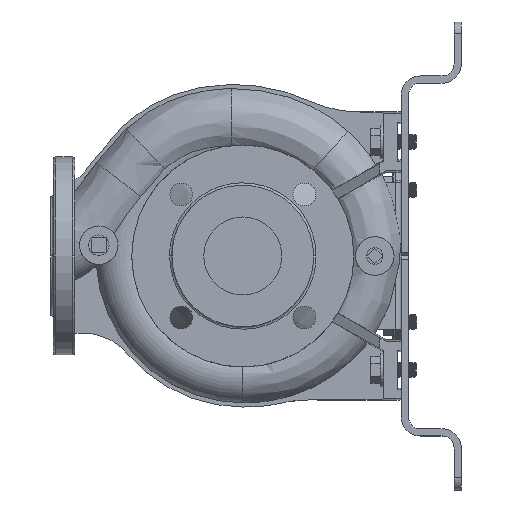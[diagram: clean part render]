
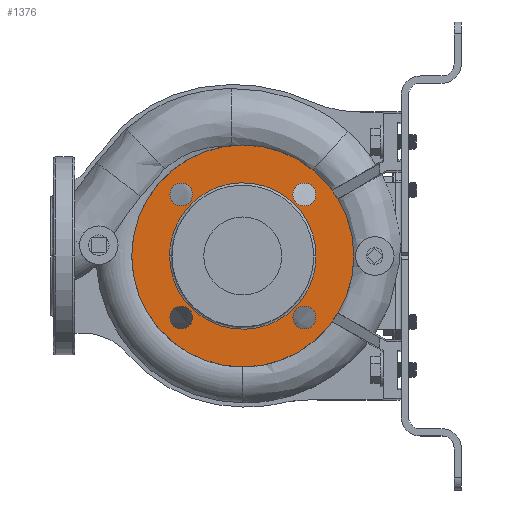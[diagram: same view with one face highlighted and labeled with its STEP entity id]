
A CAD part, left-side view. The second image highlights one B-rep face of the part: STEP entity #1376.
In plain terms, the highlighted planar face has unit normal (-1, 0, 0).
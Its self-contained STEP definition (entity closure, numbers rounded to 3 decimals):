
#1295 = EDGE_CURVE ( 'NONE', #45062, #151383, #117949, .T. ) ;
#1376 = ADVANCED_FACE ( 'NONE', ( #38204, #11997, #39110, #163739, #134879, #40012 ), #11122, .F. ) ;
#2098 = ORIENTED_EDGE ( 'NONE', *, *, #78221, .F. ) ;
#2826 = VERTEX_POINT ( 'NONE', #82690 ) ;
#3183 = DIRECTION ( 'NONE',  ( -1., 0., 0. ) ) ;
#5186 = CARTESIAN_POINT ( 'NONE',  ( -98., 0., -92.5 ) ) ;
#9315 = DIRECTION ( 'NONE',  ( 0., 1., 0. ) ) ;
#10066 = CARTESIAN_POINT ( 'NONE',  ( -98., -51.265, 60.765 ) ) ;
#10396 = CARTESIAN_POINT ( 'NONE',  ( -98., -51.265, 41.765 ) ) ;
#10887 = DIRECTION ( 'NONE',  ( 0., 0., 1. ) ) ;
#11122 = PLANE ( 'NONE',  #141025 ) ;
#11997 = FACE_BOUND ( 'NONE', #153858, .T. ) ;
#13023 = CARTESIAN_POINT ( 'NONE',  ( -98., 51.265, 41.765 ) ) ;
#14285 = CARTESIAN_POINT ( 'NONE',  ( -98., -51.265, 51.265 ) ) ;
#18477 =( BOUNDED_CURVE ( )  B_SPLINE_CURVE ( 3, ( #35251, #90329, #160773, #145461 ),
 .UNSPECIFIED., .F., .F. ) 
 B_SPLINE_CURVE_WITH_KNOTS ( ( 4, 4 ),
 ( 0., 1. ),
 .UNSPECIFIED. ) 
 CURVE ( )  GEOMETRIC_REPRESENTATION_ITEM ( )  RATIONAL_B_SPLINE_CURVE ( ( 0.957, 0.319, 0.319, 0.957 ) ) 
 REPRESENTATION_ITEM ( '' )  );
#20011 = AXIS2_PLACEMENT_3D ( 'NONE', #157981, #76672, #101986 ) ;
#20870 = CARTESIAN_POINT ( 'NONE',  ( -98., 51.265, 51.265 ) ) ;
#27264 = DIRECTION ( 'NONE',  ( -1., 0., 0. ) ) ;
#27612 = DIRECTION ( 'NONE',  ( 0., 0., 1. ) ) ;
#30455 = ORIENTED_EDGE ( 'NONE', *, *, #34782, .F. ) ;
#30540 = DIRECTION ( 'NONE',  ( -1., 0., 0. ) ) ;
#31744 = VERTEX_POINT ( 'NONE', #10066 ) ;
#32587 = CARTESIAN_POINT ( 'NONE',  ( -98., 51.265, -51.265 ) ) ;
#34620 = AXIS2_PLACEMENT_3D ( 'NONE', #14285, #125367, #113583 ) ;
#34782 = EDGE_CURVE ( 'NONE', #107706, #160732, #117207, .T. ) ;
#35251 = CARTESIAN_POINT ( 'NONE',  ( -98., 61., 0. ) ) ;
#37457 = ORIENTED_EDGE ( 'NONE', *, *, #38716, .F. ) ;
#38204 = FACE_BOUND ( 'NONE', #169034, .T. ) ;
#38716 = EDGE_CURVE ( 'NONE', #2826, #165281, #94963, .T. ) ;
#39110 = FACE_BOUND ( 'NONE', #81862, .T. ) ;
#39939 = CARTESIAN_POINT ( 'NONE',  ( -98., 0., 0. ) ) ;
#40012 = FACE_OUTER_BOUND ( 'NONE', #134618, .T. ) ;
#41217 = AXIS2_PLACEMENT_3D ( 'NONE', #164899, #52905, #27612 ) ;
#45062 = VERTEX_POINT ( 'NONE', #13023 ) ;
#45836 = CARTESIAN_POINT ( 'NONE',  ( -98., 0., 0. ) ) ;
#49828 = CIRCLE ( 'NONE', #41217, 9.5 ) ;
#52905 = DIRECTION ( 'NONE',  ( -1., 0., 0. ) ) ;
#53315 = CARTESIAN_POINT ( 'NONE',  ( -98., 61., 122. ) ) ;
#53378 = DIRECTION ( 'NONE',  ( -1., 0., 0. ) ) ;
#54274 = CARTESIAN_POINT ( 'NONE',  ( -98., -51.265, -51.265 ) ) ;
#54857 = EDGE_CURVE ( 'NONE', #72288, #100794, #159711, .T. ) ;
#56014 = ORIENTED_EDGE ( 'NONE', *, *, #178096, .F. ) ;
#56725 = EDGE_CURVE ( 'NONE', #151383, #45062, #49828, .T. ) ;
#57535 = CIRCLE ( 'NONE', #20011, 9.5 ) ;
#60947 = VERTEX_POINT ( 'NONE', #152878 ) ;
#63252 = ORIENTED_EDGE ( 'NONE', *, *, #76897, .F. ) ;
#64550 = VERTEX_POINT ( 'NONE', #10396 ) ;
#66999 = AXIS2_PLACEMENT_3D ( 'NONE', #45836, #30540, #126294 ) ;
#67650 = ORIENTED_EDGE ( 'NONE', *, *, #54857, .T. ) ;
#68004 = DIRECTION ( 'NONE',  ( 1., 0., 0. ) ) ;
#69497 = CARTESIAN_POINT ( 'NONE',  ( -98., 51.265, 60.765 ) ) ;
#70484 = AXIS2_PLACEMENT_3D ( 'NONE', #168469, #3183, #114251 ) ;
#71757 = AXIS2_PLACEMENT_3D ( 'NONE', #20870, #105754, #10887 ) ;
#72288 = VERTEX_POINT ( 'NONE', #5186 ) ;
#74384 = EDGE_LOOP ( 'NONE', ( #56014, #37457 ) ) ;
#76672 = DIRECTION ( 'NONE',  ( -1., 0., 0. ) ) ;
#76897 = EDGE_CURVE ( 'NONE', #60947, #139838, #18477, .T. ) ;
#78221 = EDGE_CURVE ( 'NONE', #64550, #31744, #123974, .T. ) ;
#78592 = DIRECTION ( 'NONE',  ( -1., 0., 0. ) ) ;
#80428 = CARTESIAN_POINT ( 'NONE',  ( -98., -61., 122. ) ) ;
#81862 = EDGE_LOOP ( 'NONE', ( #30455, #160358 ) ) ;
#82690 = CARTESIAN_POINT ( 'NONE',  ( -98., -51.265, -60.765 ) ) ;
#89690 = CIRCLE ( 'NONE', #124269, 9.5 ) ;
#90329 = CARTESIAN_POINT ( 'NONE',  ( -98., 61., -122. ) ) ;
#93669 =( BOUNDED_CURVE ( )  B_SPLINE_CURVE ( 3, ( #107528, #80428, #53315, #175295 ),
 .UNSPECIFIED., .F., .F. ) 
 B_SPLINE_CURVE_WITH_KNOTS ( ( 4, 4 ),
 ( 0., 1. ),
 .UNSPECIFIED. ) 
 CURVE ( )  GEOMETRIC_REPRESENTATION_ITEM ( )  RATIONAL_B_SPLINE_CURVE ( ( 0.957, 0.319, 0.319, 0.957 ) ) 
 REPRESENTATION_ITEM ( '' )  );
#93921 = DIRECTION ( 'NONE',  ( 0., 0., 1. ) ) ;
#94963 = CIRCLE ( 'NONE', #129519, 9.5 ) ;
#95104 = CARTESIAN_POINT ( 'NONE',  ( -98., -93.61, -93.61 ) ) ;
#100794 = VERTEX_POINT ( 'NONE', #115335 ) ;
#101986 = DIRECTION ( 'NONE',  ( 0., 0., 1. ) ) ;
#103514 = EDGE_CURVE ( 'NONE', #31744, #64550, #162801, .T. ) ;
#105597 = AXIS2_PLACEMENT_3D ( 'NONE', #137599, #107796, #150260 ) ;
#105754 = DIRECTION ( 'NONE',  ( -1., 0., 0. ) ) ;
#105862 = CIRCLE ( 'NONE', #134747, 92.5 ) ;
#107528 = CARTESIAN_POINT ( 'NONE',  ( -98., -61., 0. ) ) ;
#107706 = VERTEX_POINT ( 'NONE', #162500 ) ;
#107796 = DIRECTION ( 'NONE',  ( -1., 0., 0. ) ) ;
#110953 = ORIENTED_EDGE ( 'NONE', *, *, #175404, .F. ) ;
#113583 = DIRECTION ( 'NONE',  ( 0., 0., 1. ) ) ;
#114251 = DIRECTION ( 'NONE',  ( 0., 0., 1. ) ) ;
#115335 = CARTESIAN_POINT ( 'NONE',  ( -98., 0., 92.5 ) ) ;
#117207 = CIRCLE ( 'NONE', #105597, 9.5 ) ;
#117949 = CIRCLE ( 'NONE', #71757, 9.5 ) ;
#123974 = CIRCLE ( 'NONE', #34620, 9.5 ) ;
#124269 = AXIS2_PLACEMENT_3D ( 'NONE', #32587, #78592, #93921 ) ;
#125367 = DIRECTION ( 'NONE',  ( -1., 0., 0. ) ) ;
#126294 = DIRECTION ( 'NONE',  ( 0., 0., 1. ) ) ;
#129519 = AXIS2_PLACEMENT_3D ( 'NONE', #54274, #53378, #136495 ) ;
#130697 = EDGE_CURVE ( 'NONE', #100794, #72288, #105862, .T. ) ;
#134618 = EDGE_LOOP ( 'NONE', ( #165847, #67650 ) ) ;
#134747 = AXIS2_PLACEMENT_3D ( 'NONE', #39939, #27264, #151026 ) ;
#134879 = FACE_BOUND ( 'NONE', #146425, .T. ) ;
#136495 = DIRECTION ( 'NONE',  ( 0., 0., 1. ) ) ;
#137599 = CARTESIAN_POINT ( 'NONE',  ( -98., 51.265, -51.265 ) ) ;
#139688 = EDGE_CURVE ( 'NONE', #160732, #107706, #89690, .T. ) ;
#139838 = VERTEX_POINT ( 'NONE', #170125 ) ;
#141025 = AXIS2_PLACEMENT_3D ( 'NONE', #95104, #68004, #9315 ) ;
#145461 = CARTESIAN_POINT ( 'NONE',  ( -98., -61., 0. ) ) ;
#146425 = EDGE_LOOP ( 'NONE', ( #176813, #2098 ) ) ;
#150260 = DIRECTION ( 'NONE',  ( 0., 0., 1. ) ) ;
#151026 = DIRECTION ( 'NONE',  ( 0., 0., 1. ) ) ;
#151383 = VERTEX_POINT ( 'NONE', #69497 ) ;
#152878 = CARTESIAN_POINT ( 'NONE',  ( -98., 61., 0. ) ) ;
#153516 = CARTESIAN_POINT ( 'NONE',  ( -98., 51.265, -60.765 ) ) ;
#153858 = EDGE_LOOP ( 'NONE', ( #155229, #159734 ) ) ;
#155229 = ORIENTED_EDGE ( 'NONE', *, *, #56725, .F. ) ;
#156208 = CARTESIAN_POINT ( 'NONE',  ( -98., -51.265, -41.765 ) ) ;
#157981 = CARTESIAN_POINT ( 'NONE',  ( -98., -51.265, -51.265 ) ) ;
#159711 = CIRCLE ( 'NONE', #66999, 92.5 ) ;
#159734 = ORIENTED_EDGE ( 'NONE', *, *, #1295, .F. ) ;
#160358 = ORIENTED_EDGE ( 'NONE', *, *, #139688, .F. ) ;
#160732 = VERTEX_POINT ( 'NONE', #153516 ) ;
#160773 = CARTESIAN_POINT ( 'NONE',  ( -98., -61., -122. ) ) ;
#162500 = CARTESIAN_POINT ( 'NONE',  ( -98., 51.265, -41.765 ) ) ;
#162801 = CIRCLE ( 'NONE', #70484, 9.5 ) ;
#163739 = FACE_BOUND ( 'NONE', #74384, .T. ) ;
#164899 = CARTESIAN_POINT ( 'NONE',  ( -98., 51.265, 51.265 ) ) ;
#165281 = VERTEX_POINT ( 'NONE', #156208 ) ;
#165847 = ORIENTED_EDGE ( 'NONE', *, *, #130697, .T. ) ;
#168469 = CARTESIAN_POINT ( 'NONE',  ( -98., -51.265, 51.265 ) ) ;
#169034 = EDGE_LOOP ( 'NONE', ( #63252, #110953 ) ) ;
#170125 = CARTESIAN_POINT ( 'NONE',  ( -98., -61., 0. ) ) ;
#175295 = CARTESIAN_POINT ( 'NONE',  ( -98., 61., 0. ) ) ;
#175404 = EDGE_CURVE ( 'NONE', #139838, #60947, #93669, .T. ) ;
#176813 = ORIENTED_EDGE ( 'NONE', *, *, #103514, .F. ) ;
#178096 = EDGE_CURVE ( 'NONE', #165281, #2826, #57535, .T. ) ;
